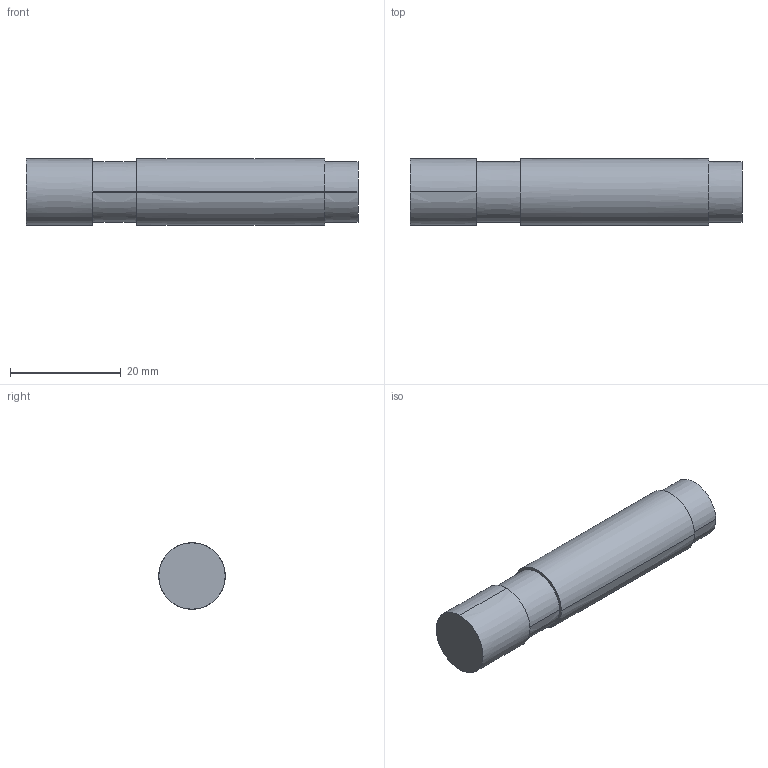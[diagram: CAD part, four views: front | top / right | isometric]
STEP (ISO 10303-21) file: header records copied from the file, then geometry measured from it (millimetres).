
FILE_DESCRIPTION((''),'2;1');
FILE_NAME('871C_PG2-118_MICROQD_M12N','2010-10-16T',('Administrator'),(''),'PRO/ENGINEER BY PARAMETRIC TECHNOLOGY CORPORATION, 2006010','PRO/ENGINEER BY PARAMETRIC TECHNOLOGY CORPORATION, 2006010','');
FILE_SCHEMA(('CONFIG_CONTROL_DESIGN'));
Length unit declared in the file: millimetre
Products named in the file (1): 871C_PG2-118_MICROQD_M12N
Bounding box: 60 x 12 x 12 mm (x, y, z)
Surface area: 2480.3 mm2 (no closed solid volume)
Topology: 0 solids, 0 shells, 13 faces, 64 edges, 72 vertices
Faces by surface type: bspline 13
Entity records: 1598 total; most frequent: CARTESIAN_POINT 1031, DIRECTION 98, TRIMMED_CURVE 72, VECTOR 48, LINE 48, DEFINITIONAL_REPRESENTATION 48, PCURVE 48, COMPOSITE_CURVE_SEGMENT 48
